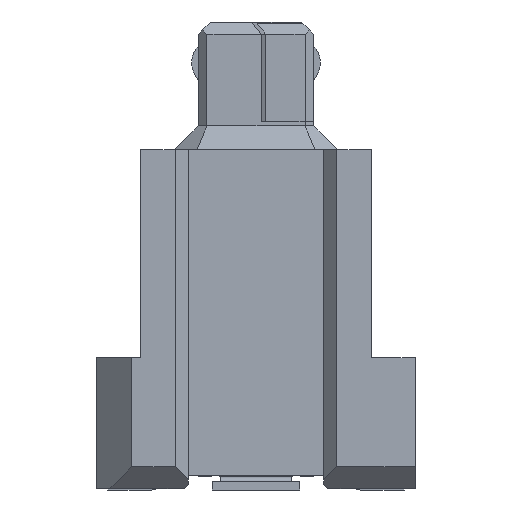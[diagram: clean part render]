
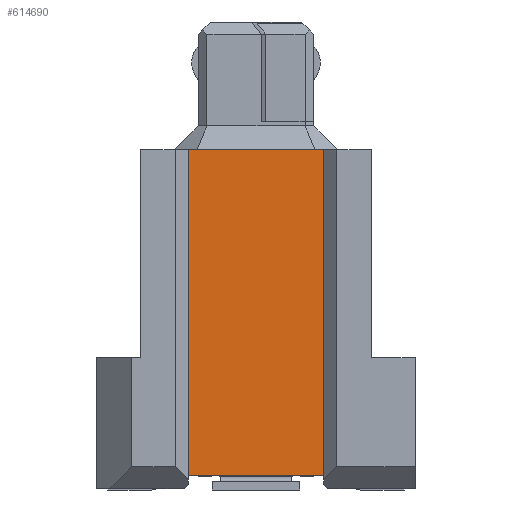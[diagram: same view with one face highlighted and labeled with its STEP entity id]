
A CAD part, left-side view. The second image highlights one B-rep face of the part: STEP entity #614690.
In plain terms, the highlighted planar face has unit normal (-1, 0, 0).
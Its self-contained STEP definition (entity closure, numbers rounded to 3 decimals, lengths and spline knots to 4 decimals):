
#245000=CARTESIAN_POINT('',(-10.0318,2.4098,4.2));
#245010=VERTEX_POINT('',#245000);
#245040=CARTESIAN_POINT('',(-10.0318,2.4098,0.));
#245050=DIRECTION('',(0.,0.,-1.));
#245060=VECTOR('',#245050,1.);
#245070=LINE('',#245040,#245060);
#245080=CARTESIAN_POINT('',(-10.0318,2.4098,1.1));
#245090=VERTEX_POINT('',#245080);
#245100=EDGE_CURVE('',#245010,#245090,#245070,.T.);
#594310=CARTESIAN_POINT('',(-10.0318,-5.0602,4.2));
#594320=VERTEX_POINT('',#594310);
#594350=CARTESIAN_POINT('',(-10.0318,0.,4.2));
#594360=DIRECTION('',(0.,-1.,0.));
#594370=VECTOR('',#594360,1.);
#594380=LINE('',#594350,#594370);
#594390=EDGE_CURVE('',#245010,#594320,#594380,.T.);
#601500=CARTESIAN_POINT('',(-10.0318,-5.0602,1.1));
#601510=VERTEX_POINT('',#601500);
#601540=CARTESIAN_POINT('',(-10.0318,-5.0602,0.));
#601550=DIRECTION('',(0.,0.,-1.));
#601560=VECTOR('',#601550,1.);
#601570=LINE('',#601540,#601560);
#601580=EDGE_CURVE('',#594320,#601510,#601570,.T.);
#614530=CARTESIAN_POINT('',(-10.0318,-3.3602,5.3));
#614540=DIRECTION('',(-1.,0.,0.));
#614550=DIRECTION('',(0.,1.,0.));
#614560=AXIS2_PLACEMENT_3D('',#614530,#614540,#614550);
#614570=PLANE('',#614560);
#614580=ORIENTED_EDGE('',*,*,#601580,.F.);
#614590=CARTESIAN_POINT('',(-10.0318,-2.3602,1.1));
#614600=DIRECTION('',(0.,1.,0.));
#614610=VECTOR('',#614600,1.);
#614620=LINE('',#614590,#614610);
#614630=EDGE_CURVE('',#601510,#245090,#614620,.T.);
#614640=ORIENTED_EDGE('',*,*,#614630,.F.);
#614650=ORIENTED_EDGE('',*,*,#245100,.T.);
#614660=ORIENTED_EDGE('',*,*,#594390,.F.);
#614670=EDGE_LOOP('',(#614660,#614650,#614640,#614580));
#614680=FACE_OUTER_BOUND('',#614670,.T.);
#614690=ADVANCED_FACE('',(#614680),#614570,.T.);
